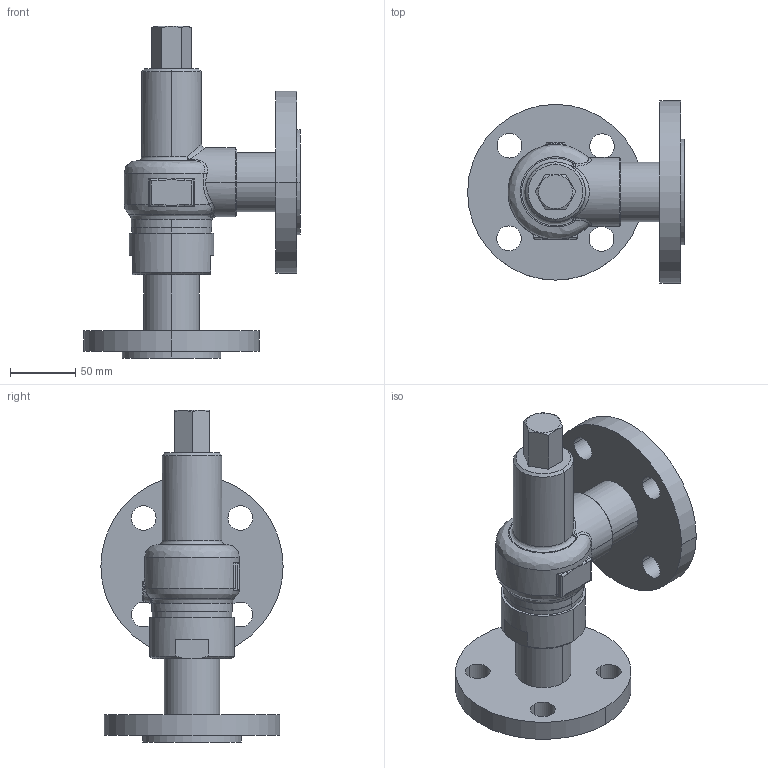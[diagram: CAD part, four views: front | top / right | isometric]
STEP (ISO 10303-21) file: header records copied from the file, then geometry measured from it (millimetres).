
FILE_DESCRIPTION( (''), '2;1');
FILE_NAME ('PC1027.9568.AL-32 32A_5597.stp','2025-07-28T13:27:14',(''),(''),'spGate 19.8.4 (****-****-****-****)','','');
FILE_SCHEMA (('AUTOMOTIVE_DESIGN'));
Length unit declared in the file: millimetre
Products named in the file (2): Assembly; AL-32 32A-3D
Assembly tree (1 placements, depth 2):
  Assembly
    AL-32 32A-3D
Bounding box: 166.5 x 140 x 255 mm (x, y, z)
Volume: 991154.7 mm3; surface area: 133902.5 mm2
Topology: 1 solids, 1 shells, 128 faces, 316 edges, 199 vertices
Faces by surface type: cylinder 53, bspline 40, plane 33, sphere 2
Entity records: 8144 total; most frequent: CARTESIAN_POINT 2847, ORIENTED_EDGE 628, DIRECTION 522, COLOUR_RGB 443, PRESENTATION_STYLE_ASSIGNMENT 443, STYLED_ITEM 443, EDGE_CURVE 314, DRAUGHTING_PRE_DEFINED_CURVE_FONT 314
